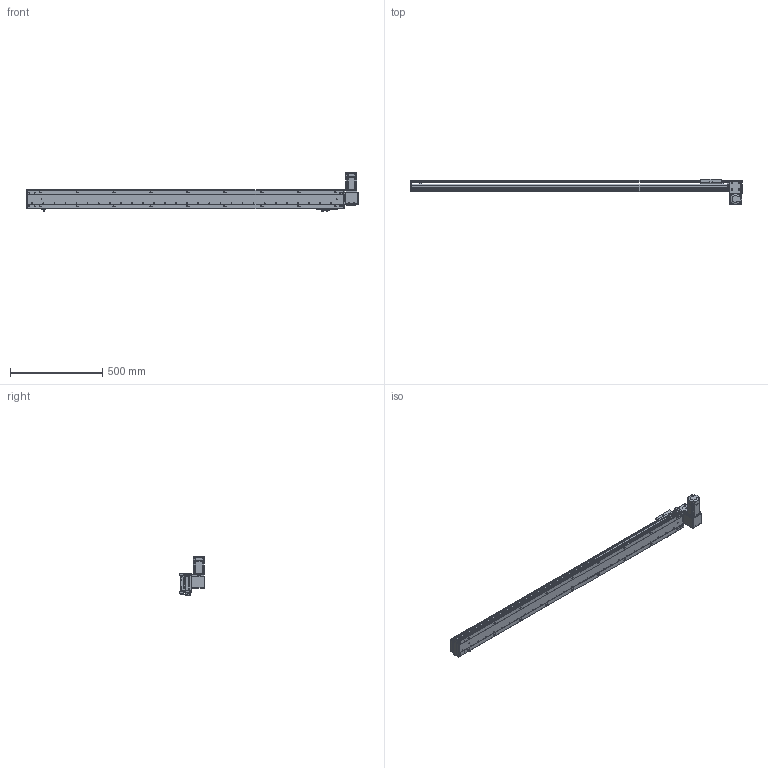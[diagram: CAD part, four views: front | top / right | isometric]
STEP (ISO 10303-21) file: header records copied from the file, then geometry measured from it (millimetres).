
FILE_DESCRIPTION (( 'STEP AP203' ), '1' );
FILE_NAME ('RY100-T-300-DR.SLDASM_1500.step', '2024-04-25T03:23:40', ( '盈信电脑' ), ( '东莞市道滘镇水果街19号' ), 'SwSTEP 2.0', 'SolidWorks 2016', '' );
FILE_SCHEMA (( 'CONFIG_CONTROL_DESIGN' ));
Length unit declared in the file: millimetre
Products named in the file (16): 覜茼ん672; 滅袉蝶18-10; RY80-T肮祭謫狟殏俋欶; RY100-T肮祭謫翋盓傅釱; RY100-T左右折电机安装板; RY100-T肮祭謫臏賑輸; 1; RY100-T-300-RK倰第菁釱_1500; RY100俋离覜茼え; RY100-T翋肮祭謫裔啣; RY100-T-300-RK倰第奻裔_1500; RY100-T翋肮祭謫裔啣2; RY100-T粣創揤踡裔; RY100-T-300-DR.SLDASM_1500; 侂狟200W萇儂; RY100綴裔啣
Assembly tree (19 placements, depth 3):
  RY100-T-300-DR.SLDASM_1500
    RY100-T-300-RK倰第菁釱_1500
    RY100-T-300-RK倰第奻裔_1500
    RY100-T肮祭謫臏賑輸
    RY100綴裔啣
    覜茼ん672  x3
    RY100俋离覜茼え
    RY100-T肮祭謫翋盓傅釱
    RY100-T左右折电机安装板
    侂狟200W萇儂
      1
    RY100-T粣創揤踡裔
    滅袉蝶18-10  x2
    RY100-T翋肮祭謫裔啣2  x2
    RY100-T翋肮祭謫裔啣
    RY80-T肮祭謫狟殏俋欶
Bounding box: 1800 x 135.5 x 209.7 mm (x, y, z)
Volume: 3440465.8 mm3; surface area: 1448633.3 mm2
Topology: 18 solids, 18 shells, 2281 faces, 6359 edges, 4133 vertices
Faces by surface type: plane 1221, cylinder 847, cone 135, bspline 78
Entity records: 73476 total; most frequent: CARTESIAN_POINT 17758, ORIENTED_EDGE 11454, DIRECTION 10919, EDGE_CURVE 5727, VERTEX_POINT 3769, LINE 3661, VECTOR 3661, AXIS2_PLACEMENT_3D 3629
